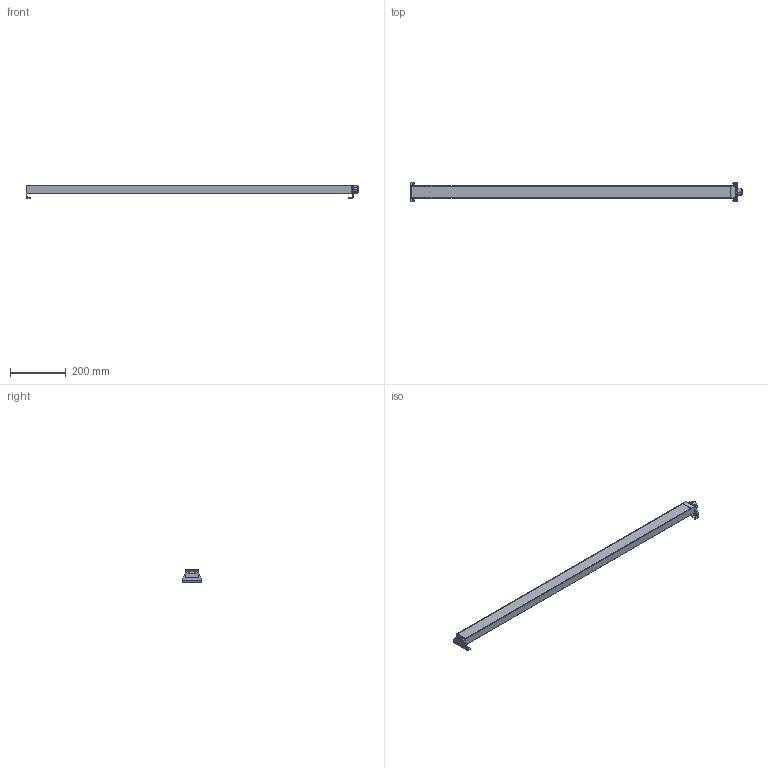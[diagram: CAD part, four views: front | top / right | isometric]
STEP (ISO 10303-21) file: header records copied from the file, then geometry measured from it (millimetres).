
FILE_DESCRIPTION (( 'STEP AP214' ), '1' );
FILE_NAME ('GAU-48-IPS-LED.STEP', '2017-07-28T21:31:28', ( '' ), ( '' ), 'SwSTEP 2.0', 'SolidWorks 2016', '' );
FILE_SCHEMA (( 'AUTOMOTIVE_DESIGN' ));
Length unit declared in the file: inch
Products named in the file (4): foot without cord; GAU-48-IPS-LED; foot with cord
Assembly tree (3 placements, depth 2):
  GAU-48-IPS-LED
    foot with cord
    GAU-48-IPS-LED
    foot without cord
Bounding box: 1187.89 x 68.33 x 46.93 mm (x, y, z)
Volume: 1320036.3 mm3; surface area: 198535.9 mm2
Topology: 3 solids, 5 shells, 104 faces, 277 edges, 185 vertices
Faces by surface type: plane 58, cylinder 44, bspline 2
Entity records: 3764 total; most frequent: CARTESIAN_POINT 928, DIRECTION 564, ORIENTED_EDGE 554, EDGE_CURVE 277, AXIS2_PLACEMENT_3D 195, VERTEX_POINT 185, LINE 174, VECTOR 174
